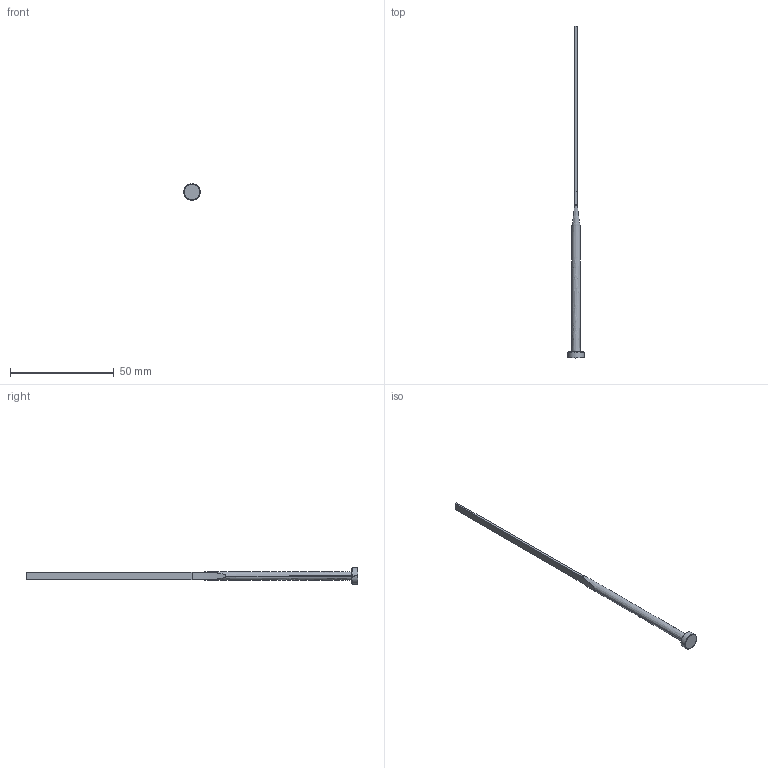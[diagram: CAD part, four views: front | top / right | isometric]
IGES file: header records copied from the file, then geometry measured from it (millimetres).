
Start section: SolidWorks IGES file using analytic representation for surfaces
Global section: file name: C:\Users\365admin\AppData\Local\Temp\InFlowXlateWorking\BE4-1.0L160.igs; native system: SolidWorks 2018; preprocessor: SolidWorks 2018; author: 365admin; date: 200822.020656; units: millimetre
Bounding box: 8 x 160 x 8 mm (x, y, z)
Surface area: 1818.3 mm2 (no closed solid volume)
Topology: 0 solids, 0 shells, 21 faces, 258 edges, 258 vertices
Faces by surface type: revolution 12, bspline 9
